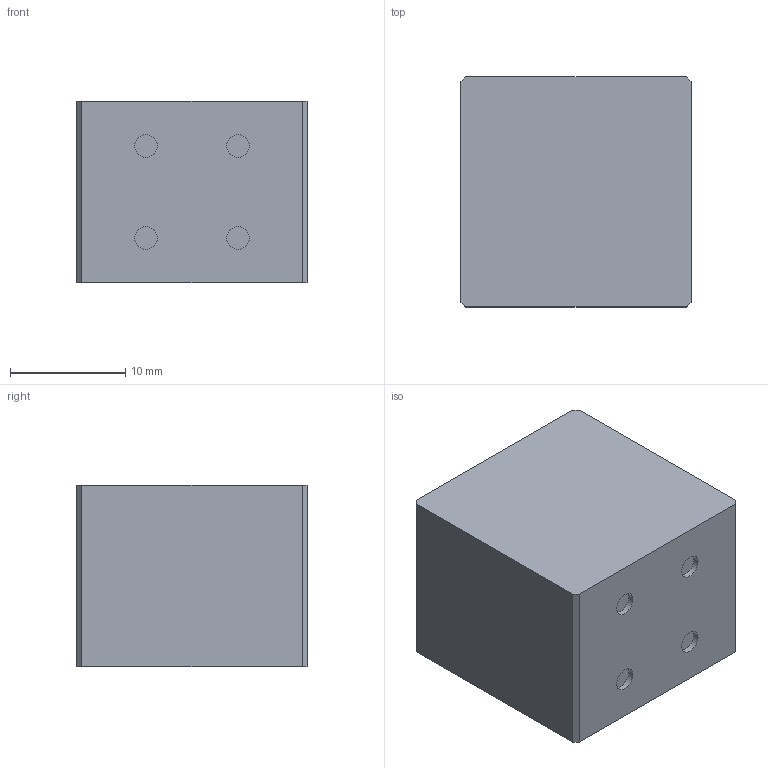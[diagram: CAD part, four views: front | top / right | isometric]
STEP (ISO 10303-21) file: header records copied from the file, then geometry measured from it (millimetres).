
FILE_DESCRIPTION(('Open CASCADE Model'),'2;1');
FILE_NAME('Open CASCADE Shape Model','2026-08-23T08:04:37',('Author'),( 'Open CASCADE'),'Open CASCADE STEP processor 7.9','Open CASCADE 7.9' ,'Unknown');
FILE_SCHEMA(('AUTOMOTIVE_DESIGN { 1 0 10303 214 1 1 1 1 }'));
Length unit declared in the file: millimetre
Products named in the file (2): =>[0:1:1:2]; COMPOUND
Assembly tree (1 placements, depth 2):
  =>[0:1:1:2]
    COMPOUND
Bounding box: 20 x 20 x 15.75 mm (x, y, z)
Volume: 6288.7 mm3; surface area: 2057.2 mm2
Topology: 1 solids, 1 shells, 18 faces, 36 edges, 24 vertices
Faces by surface type: plane 14, cylinder 4
Full cylindrical faces by diameter (mm): 2 x4
Entity records: 992 total; most frequent: CARTESIAN_POINT 176, DIRECTION 152, LINE 92, VECTOR 92, ORIENTED_EDGE 72, PCURVE 72, DEFINITIONAL_REPRESENTATION 72, EDGE_CURVE 36
